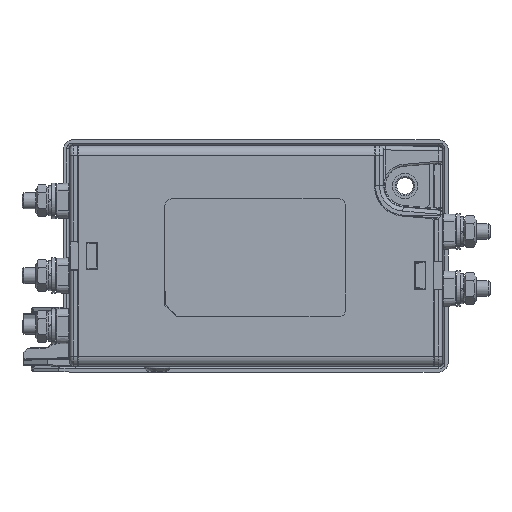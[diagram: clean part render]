
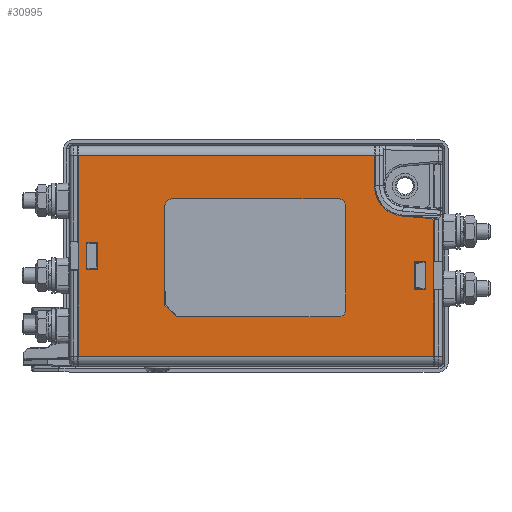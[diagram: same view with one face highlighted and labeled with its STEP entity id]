
A CAD part, top view. The second image highlights one B-rep face of the part: STEP entity #30995.
In plain terms, the highlighted planar face has unit normal (0, 0, 1).
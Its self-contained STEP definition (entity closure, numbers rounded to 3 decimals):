
#662=FACE_BOUND('',#3512,.T.);
#663=FACE_BOUND('',#3513,.T.);
#664=FACE_BOUND('',#3514,.T.);
#887=PLANE('',#33067);
#1672=FACE_OUTER_BOUND('',#3511,.T.);
#3511=EDGE_LOOP('',(#20579,#20580,#20581,#20582,#20583,#20584,#20585,#20586));
#3512=EDGE_LOOP('',(#20587,#20588,#20589,#20590));
#3513=EDGE_LOOP('',(#20591,#20592,#20593,#20594));
#3514=EDGE_LOOP('',(#20595,#20596,#20597,#20598,#20599,#20600,#20601,#20602,
#20603,#20604));
#5938=CIRCLE('',#32982,2.);
#5939=CIRCLE('',#32985,2.);
#5940=CIRCLE('',#32988,2.);
#5949=CIRCLE('',#33068,7.5);
#7290=LINE('',#47068,#9740);
#7293=LINE('',#47074,#9743);
#7295=LINE('',#47079,#9745);
#7299=LINE('',#47088,#9749);
#7302=LINE('',#47096,#9752);
#7376=LINE('',#47254,#9826);
#7381=LINE('',#47265,#9831);
#7420=LINE('',#47350,#9870);
#7424=LINE('',#47359,#9874);
#7427=LINE('',#47364,#9877);
#7508=LINE('',#47555,#9958);
#7509=LINE('',#47557,#9959);
#7510=LINE('',#47560,#9960);
#7511=LINE('',#47561,#9961);
#7512=LINE('',#47562,#9962);
#7513=LINE('',#47565,#9963);
#7514=LINE('',#47567,#9964);
#7515=LINE('',#47569,#9965);
#7516=LINE('',#47570,#9966);
#7517=LINE('',#47573,#9967);
#7518=LINE('',#47574,#9968);
#7519=LINE('',#47575,#9969);
#9740=VECTOR('',#37193,10.);
#9743=VECTOR('',#37198,10.);
#9745=VECTOR('',#37202,10.);
#9749=VECTOR('',#37212,10.);
#9752=VECTOR('',#37221,10.);
#9826=VECTOR('',#37349,10.);
#9831=VECTOR('',#37358,10.);
#9870=VECTOR('',#37431,10.);
#9874=VECTOR('',#37441,10.);
#9877=VECTOR('',#37446,10.);
#9958=VECTOR('',#37589,10.);
#9959=VECTOR('',#37590,10.);
#9960=VECTOR('',#37593,10.);
#9961=VECTOR('',#37594,10.);
#9962=VECTOR('',#37595,10.);
#9963=VECTOR('',#37596,10.);
#9964=VECTOR('',#37597,10.);
#9965=VECTOR('',#37598,10.);
#9966=VECTOR('',#37599,10.);
#9967=VECTOR('',#37600,10.);
#9968=VECTOR('',#37601,10.);
#9969=VECTOR('',#37602,10.);
#12286=VERTEX_POINT('',#47064);
#12287=VERTEX_POINT('',#47066);
#12288=VERTEX_POINT('',#47070);
#12289=VERTEX_POINT('',#47072);
#12290=VERTEX_POINT('',#47076);
#12291=VERTEX_POINT('',#47078);
#12292=VERTEX_POINT('',#47082);
#12293=VERTEX_POINT('',#47086);
#12294=VERTEX_POINT('',#47090);
#12295=VERTEX_POINT('',#47094);
#12351=VERTEX_POINT('',#47250);
#12352=VERTEX_POINT('',#47252);
#12355=VERTEX_POINT('',#47262);
#12356=VERTEX_POINT('',#47264);
#12384=VERTEX_POINT('',#47347);
#12385=VERTEX_POINT('',#47349);
#12446=VERTEX_POINT('',#47553);
#12447=VERTEX_POINT('',#47554);
#12448=VERTEX_POINT('',#47556);
#12449=VERTEX_POINT('',#47558);
#12450=VERTEX_POINT('',#47563);
#12451=VERTEX_POINT('',#47564);
#12452=VERTEX_POINT('',#47566);
#12453=VERTEX_POINT('',#47568);
#12454=VERTEX_POINT('',#47571);
#12455=VERTEX_POINT('',#47572);
#15219=EDGE_CURVE('',#12287,#12286,#7290,.T.);
#15222=EDGE_CURVE('',#12289,#12287,#7293,.T.);
#15224=EDGE_CURVE('',#12290,#12291,#7295,.T.);
#15227=EDGE_CURVE('',#12292,#12290,#5938,.T.);
#15229=EDGE_CURVE('',#12293,#12292,#7299,.T.);
#15231=EDGE_CURVE('',#12294,#12293,#5939,.T.);
#15233=EDGE_CURVE('',#12295,#12294,#7302,.T.);
#15234=EDGE_CURVE('',#12286,#12295,#5940,.T.);
#15312=EDGE_CURVE('',#12351,#12352,#7376,.T.);
#15317=EDGE_CURVE('',#12356,#12355,#7381,.T.);
#15359=EDGE_CURVE('',#12385,#12384,#7420,.T.);
#15364=EDGE_CURVE('',#12288,#12289,#7424,.T.);
#15367=EDGE_CURVE('',#12291,#12288,#7427,.T.);
#15452=EDGE_CURVE('',#12446,#12447,#7508,.T.);
#15453=EDGE_CURVE('',#12446,#12448,#7509,.T.);
#15454=EDGE_CURVE('',#12448,#12449,#5949,.T.);
#15455=EDGE_CURVE('',#12449,#12351,#7510,.T.);
#15456=EDGE_CURVE('',#12385,#12352,#7511,.T.);
#15457=EDGE_CURVE('',#12447,#12384,#7512,.T.);
#15458=EDGE_CURVE('',#12450,#12451,#7513,.T.);
#15459=EDGE_CURVE('',#12451,#12452,#7514,.T.);
#15460=EDGE_CURVE('',#12452,#12453,#7515,.T.);
#15461=EDGE_CURVE('',#12453,#12450,#7516,.T.);
#15462=EDGE_CURVE('',#12454,#12455,#7517,.T.);
#15463=EDGE_CURVE('',#12455,#12356,#7518,.T.);
#15464=EDGE_CURVE('',#12355,#12454,#7519,.T.);
#20579=ORIENTED_EDGE('',*,*,#15452,.F.);
#20580=ORIENTED_EDGE('',*,*,#15453,.T.);
#20581=ORIENTED_EDGE('',*,*,#15454,.T.);
#20582=ORIENTED_EDGE('',*,*,#15455,.T.);
#20583=ORIENTED_EDGE('',*,*,#15312,.T.);
#20584=ORIENTED_EDGE('',*,*,#15456,.F.);
#20585=ORIENTED_EDGE('',*,*,#15359,.T.);
#20586=ORIENTED_EDGE('',*,*,#15457,.F.);
#20587=ORIENTED_EDGE('',*,*,#15458,.T.);
#20588=ORIENTED_EDGE('',*,*,#15459,.T.);
#20589=ORIENTED_EDGE('',*,*,#15460,.T.);
#20590=ORIENTED_EDGE('',*,*,#15461,.T.);
#20591=ORIENTED_EDGE('',*,*,#15462,.T.);
#20592=ORIENTED_EDGE('',*,*,#15463,.T.);
#20593=ORIENTED_EDGE('',*,*,#15317,.T.);
#20594=ORIENTED_EDGE('',*,*,#15464,.T.);
#20595=ORIENTED_EDGE('',*,*,#15224,.F.);
#20596=ORIENTED_EDGE('',*,*,#15227,.F.);
#20597=ORIENTED_EDGE('',*,*,#15229,.F.);
#20598=ORIENTED_EDGE('',*,*,#15231,.F.);
#20599=ORIENTED_EDGE('',*,*,#15233,.F.);
#20600=ORIENTED_EDGE('',*,*,#15234,.F.);
#20601=ORIENTED_EDGE('',*,*,#15219,.F.);
#20602=ORIENTED_EDGE('',*,*,#15222,.F.);
#20603=ORIENTED_EDGE('',*,*,#15364,.F.);
#20604=ORIENTED_EDGE('',*,*,#15367,.F.);
#30995=ADVANCED_FACE('',(#1672,#662,#663,#664),#887,.T.);
#32982=AXIS2_PLACEMENT_3D('',#47084,#37207,#37208);
#32985=AXIS2_PLACEMENT_3D('',#47092,#37216,#37217);
#32988=AXIS2_PLACEMENT_3D('',#47098,#37224,#37225);
#33067=AXIS2_PLACEMENT_3D('',#47552,#37587,#37588);
#33068=AXIS2_PLACEMENT_3D('',#47559,#37591,#37592);
#37193=DIRECTION('',(1.,0.,0.));
#37198=DIRECTION('',(0.707,-0.707,0.));
#37202=DIRECTION('',(0.,-1.,0.));
#37207=DIRECTION('center_axis',(0.,0.,
1.));
#37208=DIRECTION('ref_axis',(-0.707,0.707,0.));
#37212=DIRECTION('',(-1.,0.,0.));
#37216=DIRECTION('center_axis',(0.,0.,
1.));
#37217=DIRECTION('ref_axis',(0.707,0.707,0.));
#37221=DIRECTION('',(0.,1.,0.));
#37224=DIRECTION('center_axis',(0.,0.,
1.));
#37225=DIRECTION('ref_axis',(0.707,-0.707,0.));
#37349=DIRECTION('',(-1.,0.,0.));
#37358=DIRECTION('',(1.,0.,0.));
#37431=DIRECTION('',(1.,0.,0.));
#37441=DIRECTION('',(0.707,-0.707,0.));
#37446=DIRECTION('',(0.,-1.,0.));
#37587=DIRECTION('center_axis',(0.,0.,1.));
#37588=DIRECTION('ref_axis',(0.,-1.,0.));
#37589=DIRECTION('',(0.676,-0.737,0.));
#37590=DIRECTION('',(-0.996,0.087,0.));
#37591=DIRECTION('center_axis',(0.,0.,-1.));
#37592=DIRECTION('ref_axis',(-1.,0.,0.));
#37593=DIRECTION('',(0.,1.,0.));
#37594=DIRECTION('',(0.,1.,0.));
#37595=DIRECTION('',(0.,-1.,0.));
#37596=DIRECTION('',(-1.,0.,0.));
#37597=DIRECTION('',(0.,1.,0.));
#37598=DIRECTION('',(1.,0.,0.));
#37599=DIRECTION('',(0.,-1.,0.));
#37600=DIRECTION('',(-1.,0.,0.));
#37601=DIRECTION('',(0.,1.,0.));
#37602=DIRECTION('',(0.,-1.,0.));
#47064=CARTESIAN_POINT('',(19.9,-15.525,34.9));
#47066=CARTESIAN_POINT('',(-21.1,-15.525,34.9));
#47068=CARTESIAN_POINT('',(-24.1,-15.525,34.9));
#47070=CARTESIAN_POINT('',(-24.1,-12.525,34.9));
#47072=CARTESIAN_POINT('',(-21.625,-15.,34.9));
#47074=CARTESIAN_POINT('',(-20.6,-16.025,34.9));
#47076=CARTESIAN_POINT('',(-24.1,12.475,34.9));
#47078=CARTESIAN_POINT('',(-24.1,-9.025,34.9));
#47079=CARTESIAN_POINT('',(-24.1,14.475,34.9));
#47082=CARTESIAN_POINT('',(-22.1,14.475,34.9));
#47084=CARTESIAN_POINT('Origin',(-22.1,12.475,34.9));
#47086=CARTESIAN_POINT('',(19.9,14.475,34.9));
#47088=CARTESIAN_POINT('',(21.9,14.475,34.9));
#47090=CARTESIAN_POINT('',(21.9,12.475,34.9));
#47092=CARTESIAN_POINT('Origin',(19.9,12.475,34.9));
#47094=CARTESIAN_POINT('',(21.9,-13.525,34.9));
#47096=CARTESIAN_POINT('',(21.9,-15.525,34.9));
#47098=CARTESIAN_POINT('Origin',(19.9,-13.525,34.9));
#47250=CARTESIAN_POINT('',(29.2,25.5,34.9));
#47252=CARTESIAN_POINT('',(-46.1,25.5,34.9));
#47254=CARTESIAN_POINT('',(21.625,25.5,34.9));
#47262=CARTESIAN_POINT('',(42.2,-1.5,34.9));
#47264=CARTESIAN_POINT('',(39.2,-1.5,34.9));
#47265=CARTESIAN_POINT('',(19.125,-1.5,34.9));
#47347=CARTESIAN_POINT('',(44.2,-25.5,34.9));
#47349=CARTESIAN_POINT('',(-46.1,-25.5,34.9));
#47350=CARTESIAN_POINT('',(-23.525,-25.5,34.9));
#47359=CARTESIAN_POINT('',(-20.6,-16.025,34.9));
#47364=CARTESIAN_POINT('',(-24.1,14.475,34.9));
#47552=CARTESIAN_POINT('Origin',(-0.95,0.,34.9));
#47553=CARTESIAN_POINT('',(43.702,9.459,34.9));
#47554=CARTESIAN_POINT('',(44.2,8.915,34.9));
#47555=CARTESIAN_POINT('',(35.992,17.873,34.9));
#47556=CARTESIAN_POINT('',(36.046,10.129,34.9));
#47557=CARTESIAN_POINT('',(22.205,11.339,34.9));
#47558=CARTESIAN_POINT('',(29.2,17.6,34.9));
#47559=CARTESIAN_POINT('Origin',(36.7,17.6,34.9));
#47560=CARTESIAN_POINT('',(29.2,8.8,34.9));
#47561=CARTESIAN_POINT('',(-46.1,28.,34.9));
#47562=CARTESIAN_POINT('',(44.2,-28.,34.9));
#47563=CARTESIAN_POINT('',(-41.1,-3.5,34.9));
#47564=CARTESIAN_POINT('',(-44.1,-3.5,34.9));
#47565=CARTESIAN_POINT('',(-21.025,-3.5,34.9));
#47566=CARTESIAN_POINT('',(-44.1,3.5,34.9));
#47567=CARTESIAN_POINT('',(-44.1,0.,34.9));
#47568=CARTESIAN_POINT('',(-41.1,3.5,34.9));
#47569=CARTESIAN_POINT('',(-22.525,3.5,34.9));
#47570=CARTESIAN_POINT('',(-41.1,1.75,34.9));
#47571=CARTESIAN_POINT('',(42.2,-8.5,34.9));
#47572=CARTESIAN_POINT('',(39.2,-8.5,34.9));
#47573=CARTESIAN_POINT('',(20.625,-8.5,34.9));
#47574=CARTESIAN_POINT('',(39.2,-4.25,34.9));
#47575=CARTESIAN_POINT('',(42.2,-0.75,34.9));
